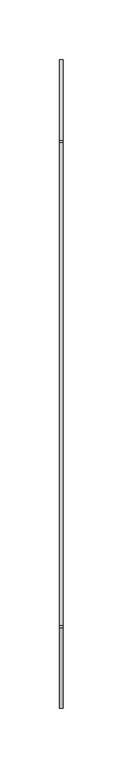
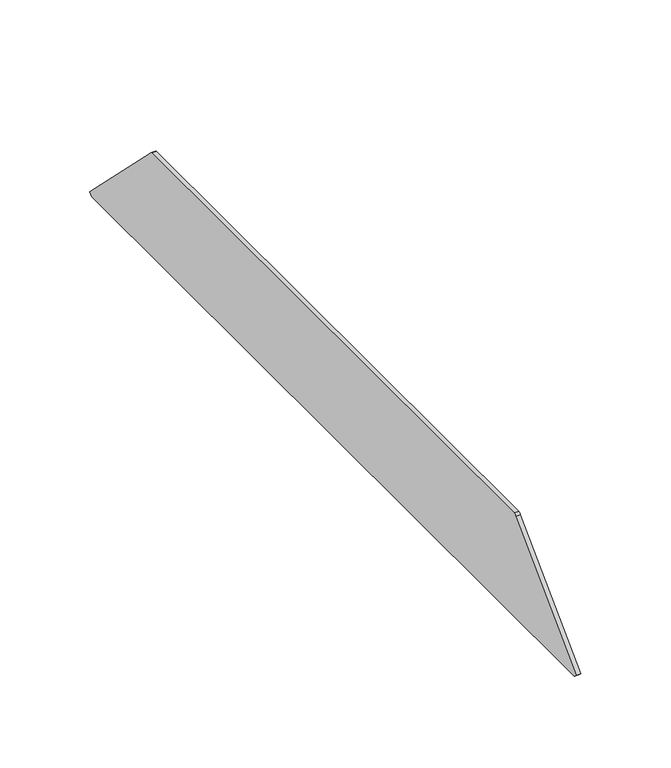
"""IFC4 building model written with IfcOpenShell, lengths in millimetres: cable carrier fitting geometry, Electrical_Installation_Hager_End-Piece : Electrical_Installation_Hager_End-Piece."""

from ifc_helpers import new_model, si_unit, point, frame, frame_2d, origin, place, context, project, spatial, polyline, circle_curve, trimmed, segment, composite_curve, outline, extrude, source, transform, mapped, element, save


def cable_carrier_fitting_d28e4f6e(model_context):
    return source(origin(), model_context, "Body", "SweptSolid", [
        extrude(outline(composite_curve([segment(polyline([(270.7213203, -32.8786797), (268.6, -35.0), (-268.6, -35.0), (-270.7213203, -32.8786797), (-203.5142136, 34.3284271)]), True, "CONTINUOUS"), segment(trimmed(circle_curve(frame_2d((-201.0170755, 32.4593317)), 3.1191692), [point((-203.5142136, 34.3284271))], [point((-201.7124549, 35.5))], False, "CARTESIAN"), True, "CONTINUOUS"), segment(polyline([(-201.7124549, 35.5), (201.7124549, 35.5)]), True, "CONTINUOUS"), segment(trimmed(circle_curve(frame_2d((200.5004738, 31.6648514)), 4.0220969), [point((201.7124549, 35.5))], [point((203.5142136, 34.3284271))], False, "CARTESIAN"), True, "CONTINUOUS"), segment(polyline([(203.5142136, 34.3284271), (270.7213203, -32.8786797)]), True, "CONTINUOUS")], self_intersect=False)), frame((0.0, 0.0, 0.0), z_axis=(1.0, 0.0, 0.0), x_axis=(0.0, 1.0, 0.0)), (0.0, 0.0, 1.0), 3.0),
    ])


if __name__ == "__main__":
    model = new_model("IFC4")
    model_context = context("Model", 3, world=origin())
    ifc_project = project(units=[si_unit("LENGTHUNIT", "METRE", prefix="MILLI")], contexts=[model_context])
    site = spatial("IfcSite", under=ifc_project)
    building = spatial("IfcBuilding", under=site)
    placement = place(None, origin())
    cable_carrier_fitting_shape = cable_carrier_fitting_d28e4f6e(model_context)
    element("IfcCableCarrierFitting", 1, ObjectType="Electrical_Installation_Hager_End-Piece : Electrical_Installation_Hager_End-Piece", at=placement, inside=building, context=model_context, shape_type="MappedRepresentation", body=[
        mapped(cable_carrier_fitting_shape, transform((0.0, 0.0, 0.0), x_axis=(1.0, 0.0, 0.0), y_axis=(0.0, 1.0, 0.0), z_axis=(0.0, 0.0, 1.0))),
    ])
    save(model, "model.ifc")
